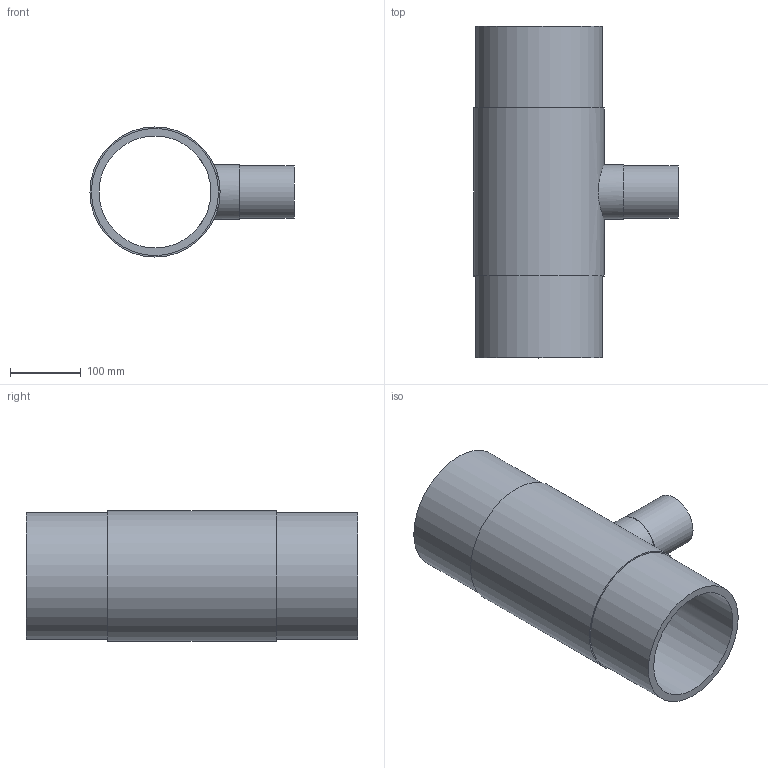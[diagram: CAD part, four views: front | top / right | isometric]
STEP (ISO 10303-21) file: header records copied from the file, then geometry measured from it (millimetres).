
FILE_DESCRIPTION(('Beschreibung'),'1');
FILE_NAME('V:/Ziel/25.20.01.063_red._SDR_17_PE100_180_075_180.STP', '2014-09-15T06:32:31',('Author'), ('Organization'), 'KCM Version 1.1.794.0', 'Kubotek KeyCreator', 'Authorization');
FILE_SCHEMA(('CONFIG_CONTROL_DESIGN'));
Length unit declared in the file: millimetre
Bounding box: 289.14 x 470 x 184.28 mm (x, y, z)
Volume: 3036139.5 mm3; surface area: 560964 mm2
Topology: 1 solids, 1 shells, 13 faces, 40 edges, 47 vertices
Faces by surface type: cylinder 7, plane 6
Full cylindrical faces by diameter (mm): 66 x1, 75 x1, 76.8 x1, 158.6 x1, 180 x2, 184.28 x1
Entity records: 750 total; most frequent: CARTESIAN_POINT 327, DIRECTION 77, ORIENTED_EDGE 48, AXIS2_PLACEMENT_3D 28, EDGE_CURVE 24, VECTOR 21, LINE 21, EDGE_LOOP 21
